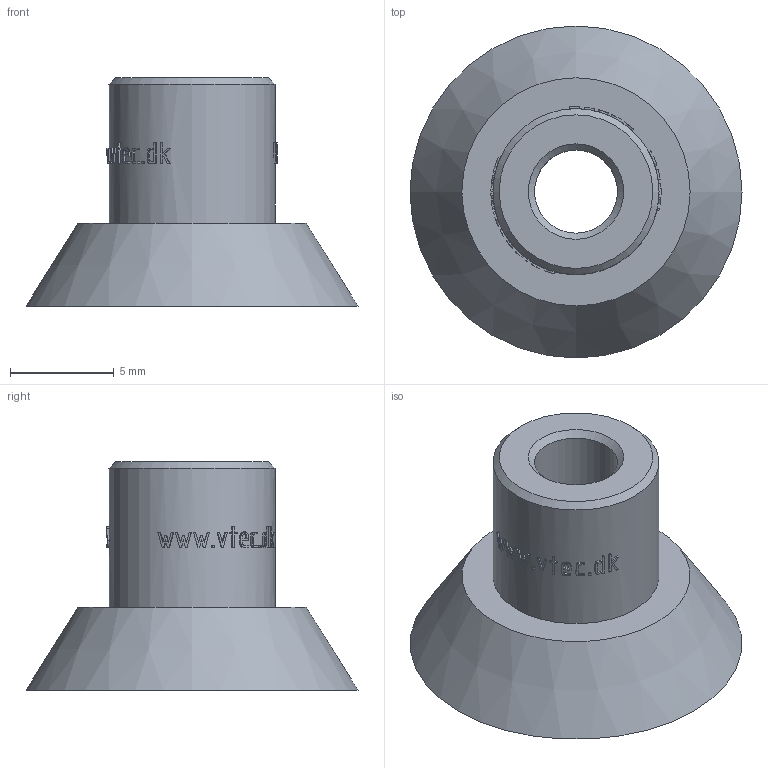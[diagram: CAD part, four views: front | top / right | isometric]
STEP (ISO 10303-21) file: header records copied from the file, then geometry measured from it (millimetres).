
FILE_DESCRIPTION( ( 'STEP AP203' ), '1' );
FILE_NAME( 'C:/撲啗紫賊-02/3D-蘋驍煎斜/Vacuum Pad/KPS series/KPS-4.stp', '2006-04-24T10:59:27', ( ' ' ), ( ' ' ), 'XStep 1.0', ' ', ' ' );
FILE_SCHEMA( ( 'CONFIG_CONTROL_DESIGN) ( )' ) );
Length unit declared in the file: metre
Products named in the file (1): 1
Bounding box: 16 x 16 x 11 mm (x, y, z)
Volume: 474.8 mm3; surface area: 796.7 mm2
Topology: 1 solids, 1 shells, 218 faces, 571 edges, 380 vertices
Faces by surface type: plane 105, bspline 73, cylinder 26, sphere 8, cone 5, torus 1
Full cylindrical faces by diameter (mm): 4 x1, 8 x1
Entity records: 9931 total; most frequent: CARTESIAN_POINT 5089, ORIENTED_EDGE 1084, DIRECTION 787, EDGE_CURVE 542, VERTEX_POINT 368, AXIS2_PLACEMENT_3D 276, EDGE_LOOP 262, LINE 235
